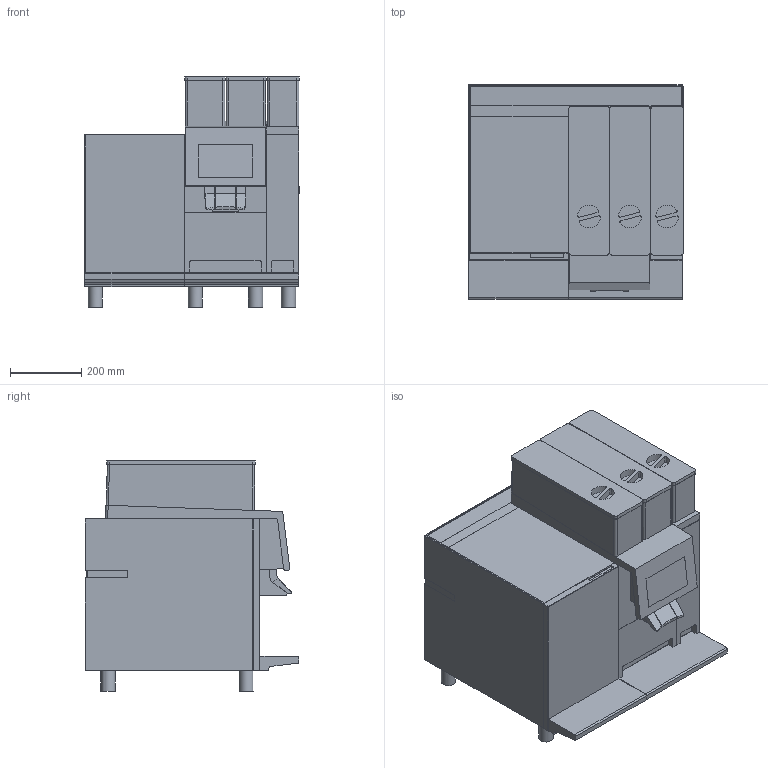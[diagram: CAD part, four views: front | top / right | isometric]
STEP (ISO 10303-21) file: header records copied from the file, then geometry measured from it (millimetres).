
FILE_DESCRIPTION(/* description */ ('Unknown'),/* implementation_level */ '2;1');
FILE_NAME(/* name */ 'HM_BW4c-CTM-P-RL',/* time_stamp */ '2026-08-14T14:27:27+02:00',/* author */ ('Unknown'),/* organization */ ('Unknown'),/* preprocessor_version */ 'ST-DEVELOPER v20',/* originating_system */ 'Solid Edge',/* authorisation */ 'Unknown');
FILE_SCHEMA (('AUTOMOTIVE_DESIGN {1 0 10303 214 3 1 1}'));
Length unit declared in the file: millimetre
Products named in the file (1): HM_BW4c-CTM-P-RL
Bounding box: 601.85 x 599.39 x 645.98 mm (x, y, z)
Volume: 150559578.6 mm3; surface area: 2424452.2 mm2
Topology: 1 solids, 1 shells, 335 faces, 916 edges, 591 vertices
Faces by surface type: plane 238, cylinder 93, sphere 4
Full cylindrical faces by diameter (mm): 40 x8
Entity records: 12843 total; most frequent: CARTESIAN_POINT 1823, ORIENTED_EDGE 1800, DIRECTION 1775, EDGE_CURVE 900, LINE 697, VECTOR 697, VERTEX_POINT 587, AXIS2_PLACEMENT_3D 539
